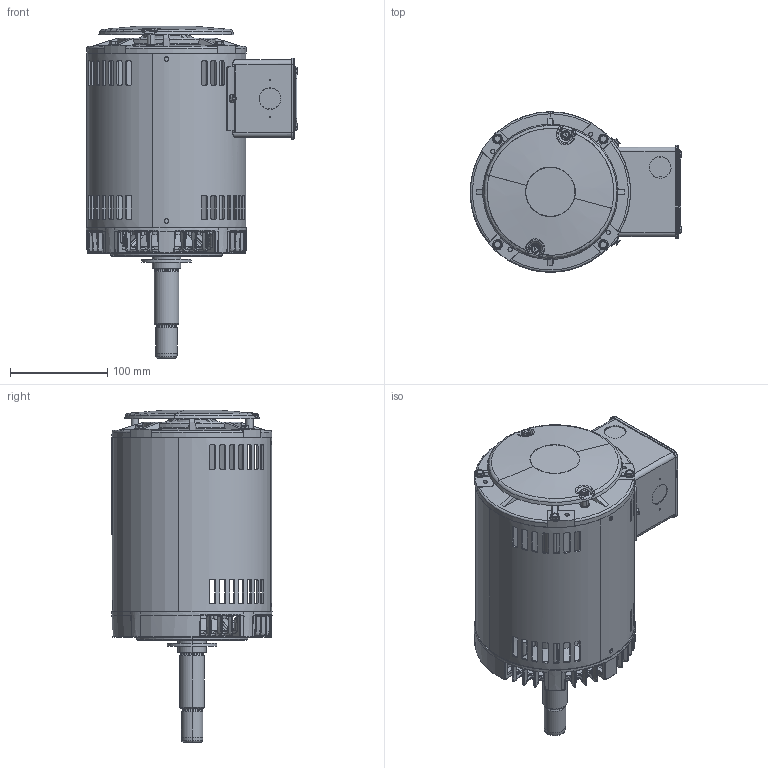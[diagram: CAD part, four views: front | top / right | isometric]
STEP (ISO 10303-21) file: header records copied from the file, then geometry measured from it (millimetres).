
FILE_DESCRIPTION (( 'STEP AP203' ), '1' );
FILE_NAME ('100186-706_Rev06.STEP', '2019-02-05T15:13:43', ( '' ), ( '' ), 'SwSTEP 2.0', 'SolidWorks 2015', '' );
FILE_SCHEMA (( 'CONFIG_CONTROL_DESIGN' ));
Products named in the file (1): 100186-706_Rev06
Bounding box: 217.14 x 164.67 x 341.18 mm (x, y, z)
Volume: 704833.5 mm3; surface area: 482828.3 mm2
Topology: 23 solids, 23 shells, 3655 faces, 9872 edges, 6233 vertices
Faces by surface type: bspline 1103, plane 1072, cylinder 575, cone 543, torus 350, sphere 12
Entity records: 165174 total; most frequent: CARTESIAN_POINT 83368, ORIENTED_EDGE 19644, DIRECTION 13908, EDGE_CURVE 9822, VERTEX_POINT 6233, AXIS2_PLACEMENT_3D 5784, B_SPLINE_CURVE_WITH_KNOTS 4138, EDGE_LOOP 3885
